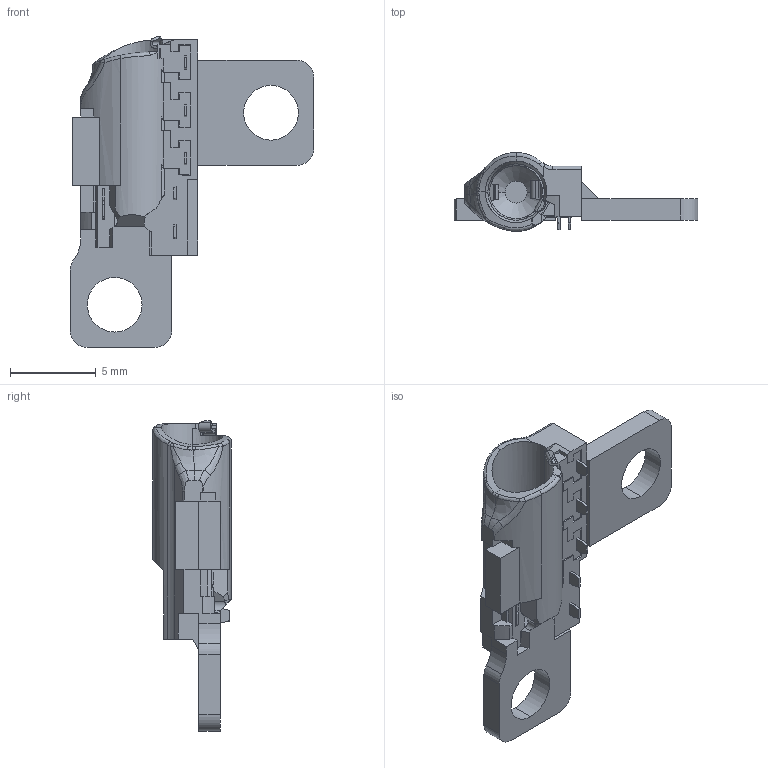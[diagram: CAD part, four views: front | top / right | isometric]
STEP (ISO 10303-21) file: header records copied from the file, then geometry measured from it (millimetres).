
FILE_DESCRIPTION((''),'2;1');
FILE_NAME('HOUSING_H','2025-04-16T',('longh'),(''),'PRO/ENGINEER BY PARAMETRIC TECHNOLOGY CORPORATION, 2008380','PRO/ENGINEER BY PARAMETRIC TECHNOLOGY CORPORATION, 2008380','');
FILE_SCHEMA(('CONFIG_CONTROL_DESIGN'));
Length unit declared in the file: millimetre
Products named in the file (1): HOUSING_H
Bounding box: 14.24 x 4.6 x 18.18 mm (x, y, z)
Volume: 230.1 mm3; surface area: 606 mm2
Topology: 1 solids, 2 shells, 354 faces, 1010 edges, 667 vertices
Faces by surface type: plane 223, cylinder 97, bspline 27, cone 5, torus 2
Entity records: 12744 total; most frequent: CARTESIAN_POINT 3774, ORIENTED_EDGE 2020, DIRECTION 1638, EDGE_CURVE 1010, VERTEX_POINT 667, VECTOR 648, LINE 648, AXIS2_PLACEMENT_3D 495
